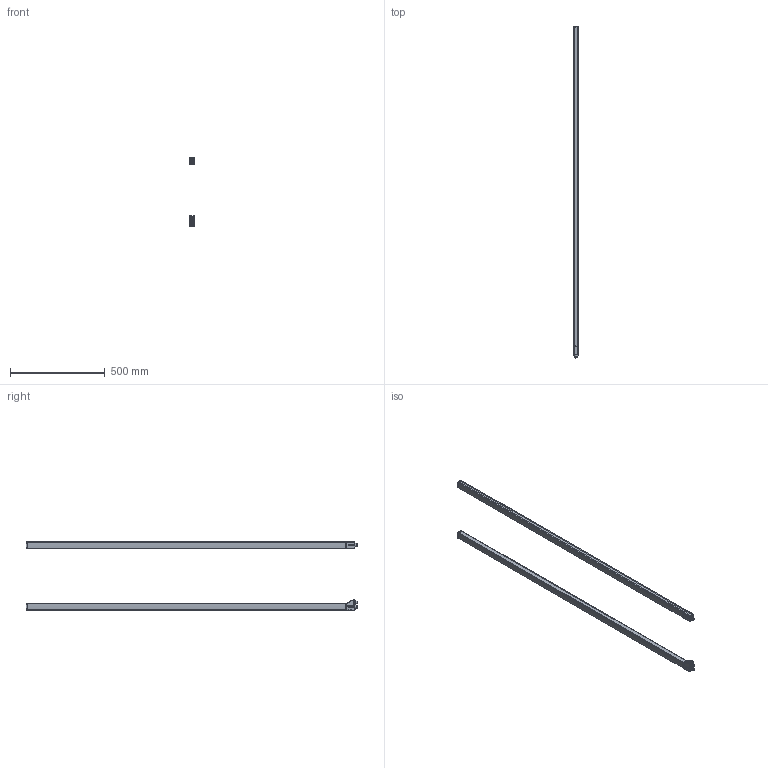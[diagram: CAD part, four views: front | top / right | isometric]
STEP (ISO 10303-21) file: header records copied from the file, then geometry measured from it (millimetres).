
FILE_DESCRIPTION(/* description */ (''),/* implementation_level */ '2;1');
FILE_NAME(/* name */ '3D_CML_700_1680_A.stp',/* time_stamp */ '2013-03-07T14:10:40+01:00',/* author */ (''),/* organization */ (''),/* preprocessor_version */ 'ST-DEVELOPER v11',/* originating_system */ 'SIEMENS UGS NX 6.0',/* authorisation */ '');
FILE_SCHEMA (('AUTOMOTIVE_DESIGN { 1 0 10303 214 1 1 1 1 }'));
Length unit declared in the file: millimetre
Products named in the file (10): M12-X_A; 002491_00.0; 001890_B; 002490_00.0; 002486_00.0; 002485_00.0; 002502_00.0_MODEL; 002492_00.1; 002484_00.1_MODEL; 002489_20.0
Assembly tree (10 placements, depth 4):
  002489_20.0
    002484_00.1_MODEL
      002485_00.0
      002486_00.0
      002490_00.0
      001890_B
    002492_00.1
      002485_00.0
      002491_00.0
      002502_00.0_MODEL
        M12-X_A
Bounding box: 29.38 x 1755.3 x 361.28 mm (x, y, z)
Volume: 3033038.6 mm3; surface area: 561636.8 mm2
Topology: 9 solids, 16 shells, 3444 faces, 9278 edges, 5905 vertices
Faces by surface type: plane 1719, cylinder 765, bspline 368, cone 197, torus 148, revolution 121, extrusion 81, sphere 45
Full cylindrical faces by diameter (mm): 0.4 x1, 0.75 x1, 0.85 x1, 1 x11, 1.25 x7, 1.4 x1, 2 x4, 2.5 x1, 2.6 x13, 3.2 x4, 3.3 x1, 3.5 x4, 4 x7, 4.2 x1, 6 x2, 6.7 x4, 7 x5, 8 x1, 8.6 x2, 9.3 x2, 10 x1, 10.11 x1, 12 x2, 13.98 x1, 15.6 x1, 18 x2
Entity records: 158380 total; most frequent: CARTESIAN_POINT 75242, ORIENTED_EDGE 17632, DIRECTION 15738, EDGE_CURVE 8816, VERTEX_POINT 5717, AXIS2_PLACEMENT_3D 5309, VECTOR 4999, LINE 4918
